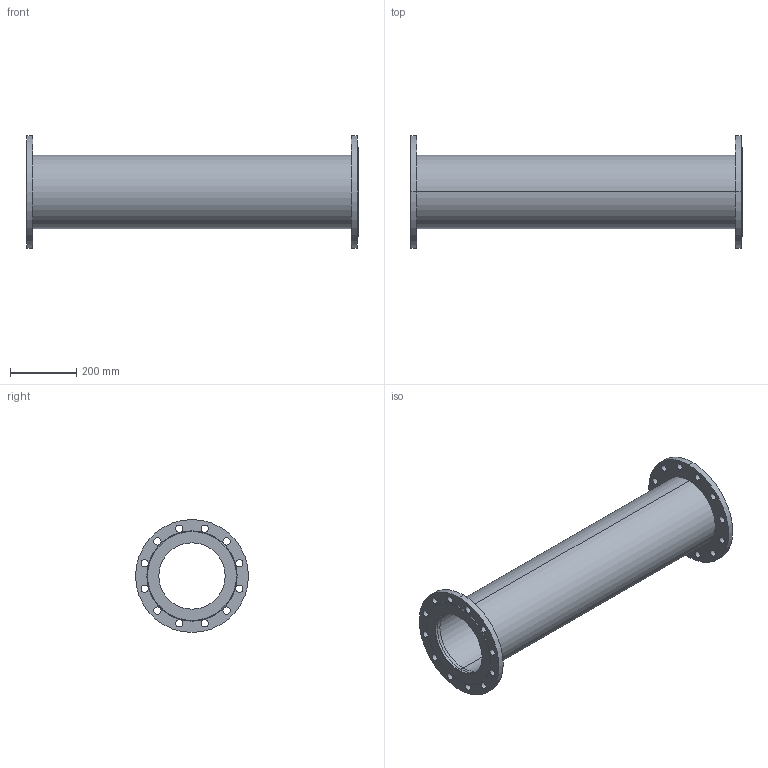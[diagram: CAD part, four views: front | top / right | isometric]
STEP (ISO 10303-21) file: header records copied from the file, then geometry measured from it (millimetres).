
FILE_DESCRIPTION(('STEP AP214'),'1');
FILE_NAME('S:/EK/USER/CAT6/3DHomepage_27-04-2012/VDI-Rohrsysteme_und_Stahlrohre/8500/8500_PN16_DN200_L1000.STP','2013-01-21T14:44:13',(' '),(' '),'Spatial InterOp 3D',' ',' ');
FILE_SCHEMA(('automotive_design'));
Length unit declared in the file: millimetre
Products named in the file (5): 3D-Objekt
Bounding box: 1000 x 340 x 340 mm (x, y, z)
Volume: 9222488.7 mm3; surface area: 1734691.2 mm2
Topology: 5 solids, 5 shells, 78 faces, 204 edges, 136 vertices
Faces by surface type: cylinder 64, plane 10, cone 4
Entity records: 3341 total; most frequent: DIRECTION 506, CARTESIAN_POINT 423, ORIENTED_EDGE 408, AXIS2_PLACEMENT_3D 219, EDGE_CURVE 204, EDGE_LOOP 136, VERTEX_POINT 136, CIRCLE 136
